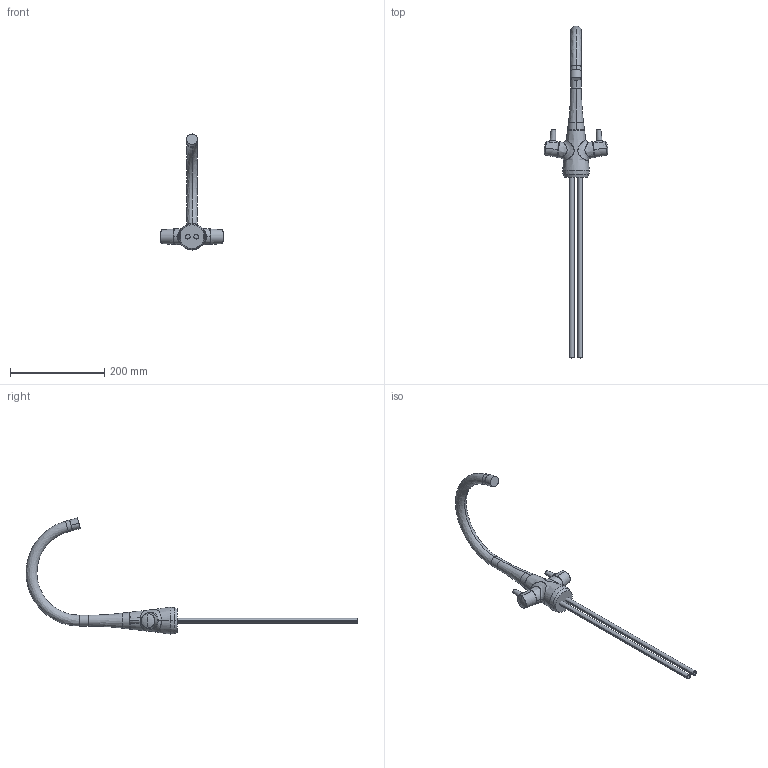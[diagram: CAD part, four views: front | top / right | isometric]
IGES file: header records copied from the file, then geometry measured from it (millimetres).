
Start section:  PTC IGES file: 90078_web.igs
Global section: file name: 90078_web.igs; native system: Creo Parametric by PTC Inc.; preprocessor: 2017380; author: jaj; organization: Unknown; date: 20180703.132830; units: millimetre
Bounding box: 135.33 x 703.18 x 245.94 mm (x, y, z)
Surface area: 113957 mm2 (no closed solid volume)
Topology: 0 solids, 0 shells, 56 faces, 340 edges, 388 vertices
Faces by surface type: revolution 46, bspline 10
